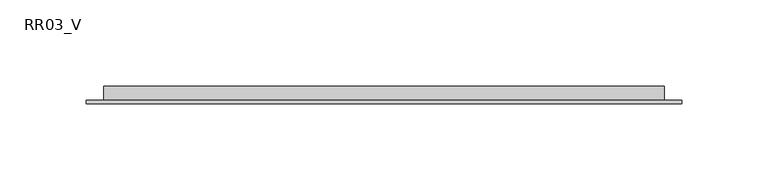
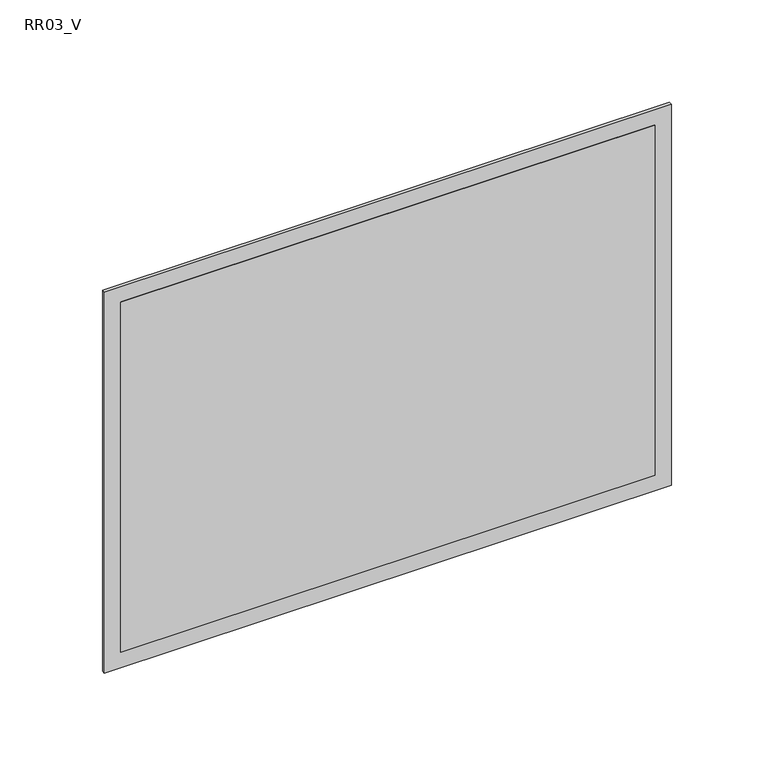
"""IFC4 building model written with IfcOpenShell, lengths in millimetres: air terminal geometry, ZYR_03.06.04.01 Reixa Paret Retorn : RR03_V."""

import ifcopenshell
import ifcopenshell.guid

model = None  # the IFC model being written
_history = None  # IfcOwnerHistory: only IFC2X3 demands one
_inside = {}  # id of a spatial element -> (the spatial element, [elements in it])
_under = {}  # id of a project, library or spatial element -> (it, [spatial elements below it])
_declared = {}  # id of a project -> (the project, [libraries it declares])
_typed = {}  # id of a type object -> (the type object, [elements of that type])
_made_of = {}  # id of a material, layer set ... -> (it, [elements and type objects made of it])


def new_model(schema):
    """Start an empty IFC model of exactly this schema.

    Asked for "IFC4X3", IfcOpenShell would pick the latest addendum, in which some entities
    have other attributes; the version numbers below select the first issue.
    IFC2X3 requires an IfcOwnerHistory on every rooted entity: one is made here for all.
    """
    global model, _history
    if schema == "IFC4X3":
        model = ifcopenshell.file(schema_version=(4, 3, 0, 0))
    else:
        model = ifcopenshell.file(schema=schema)
    _inside.clear()
    _under.clear()
    _declared.clear()
    _typed.clear()
    _made_of.clear()
    _history = None
    if model.schema == "IFC2X3":
        org = make("IfcOrganization", Name="unknown")
        user = make(
            "IfcPersonAndOrganization",
            ThePerson=make("IfcPerson", FamilyName="unknown"),
            TheOrganization=org,
        )
        app = make(
            "IfcApplication",
            ApplicationDeveloper=org,
            Version="unknown",
            ApplicationFullName="unknown",
            ApplicationIdentifier="unknown",
        )
        _history = make(
            "IfcOwnerHistory",
            OwningUser=user,
            OwningApplication=app,
            ChangeAction="ADDED",
            CreationDate=0,
        )
    return model


def make(cls, **values):
    """One entity of the class cls with the attributes given. An attribute that is None is left unset."""
    return model.create_entity(
        cls, **{name: value for name, value in values.items() if value is not None}
    )


def rooted(cls, **values):
    """An entity with a GlobalId (a new one), such as an element, a storey or a relation."""
    return make(cls, GlobalId=ifcopenshell.guid.new(), OwnerHistory=_history, **values)


def si_unit(unit_type, name, prefix=None):
    """IfcSIUnit, for example si_unit("LENGTHUNIT", "METRE", prefix="MILLI")."""
    return make("IfcSIUnit", UnitType=unit_type, Prefix=prefix, Name=name)


def assignment(units):
    """IfcUnitAssignment: the units of a project."""
    return None if units is None else make("IfcUnitAssignment", Units=units)


def point(xyz):
    """IfcCartesianPoint."""
    return None if xyz is None else make("IfcCartesianPoint", Coordinates=xyz)


def direction(xyz):
    """IfcDirection."""
    return None if xyz is None else make("IfcDirection", DirectionRatios=xyz)


def frame(location, z_axis=None, x_axis=None):
    """IfcAxis2Placement3D, a coordinate frame: its origin and axes. An axis left out is left unset."""
    return make(
        "IfcAxis2Placement3D",
        Location=point(location),
        Axis=direction(z_axis),
        RefDirection=direction(x_axis),
    )


def origin():
    """The frame at (0, 0, 0) with its axes left unset."""
    return frame((0.0, 0.0, 0.0))


def place(relative_to, where):
    """IfcLocalPlacement: puts the frame where relative to a parent placement (None: the world)."""
    return make(
        "IfcLocalPlacement", PlacementRelTo=relative_to, RelativePlacement=where
    )


def context(
    kind, dimensions, precision=None, world=None, true_north=None, identifier=None
):
    """IfcGeometricRepresentationContext, for example the 3D "Model" context."""
    return make(
        "IfcGeometricRepresentationContext",
        ContextIdentifier=identifier,
        ContextType=kind,
        CoordinateSpaceDimension=dimensions,
        Precision=precision,
        WorldCoordinateSystem=world,
        TrueNorth=true_north,
    )


def project(units=None, contexts=None):
    """IfcProject with its units and contexts."""
    return rooted(
        "IfcProject",
        Name="project",
        RepresentationContexts=contexts,
        UnitsInContext=assignment(units),
    )


def spatial(cls, under=None, at=None, **own):
    """A site, building, storey or space (cls), placed at a placement, below another one or the project."""
    s = rooted(cls, ObjectPlacement=at, **own)
    if under is not None:
        _under.setdefault(under.id(), (under, []))[1].append(s)
    return s


def polyline(points):
    """IfcPolyline through the points."""
    return make("IfcPolyline", Points=[point(p) for p in points])


def outline(outer, holes=None, kind="AREA"):
    """IfcArbitraryClosedProfileDef: a profile drawn as a closed curve; with holes, ...WithVoids."""
    if holes is None:
        return make("IfcArbitraryClosedProfileDef", ProfileType=kind, OuterCurve=outer)
    return make(
        "IfcArbitraryProfileDefWithVoids",
        ProfileType=kind,
        OuterCurve=outer,
        InnerCurves=holes,
    )


def extrude(swept, where, along, depth):
    """IfcExtrudedAreaSolid: the profile swept, set in the frame where, extruded along a direction by depth."""
    return make(
        "IfcExtrudedAreaSolid",
        SweptArea=swept,
        Position=where,
        ExtrudedDirection=direction(along),
        Depth=depth,
    )


def shape(context_of_items, identifier, shape_type, items):
    """IfcShapeRepresentation: the items that make up one representation, for example the "Body"."""
    return make(
        "IfcShapeRepresentation",
        ContextOfItems=context_of_items,
        RepresentationIdentifier=identifier,
        RepresentationType=shape_type,
        Items=items,
    )


def source(mapping_origin, context_of_items, identifier, shape_type, items):
    """IfcRepresentationMap: a shape defined once, which mapped items show again and again."""
    return make(
        "IfcRepresentationMap",
        MappingOrigin=mapping_origin,
        MappedRepresentation=shape(context_of_items, identifier, shape_type, items),
    )


def transform(
    local_origin,
    x_axis=None,
    y_axis=None,
    z_axis=None,
    scale=None,
    scale2=None,
    scale3=None,
    uniform=True,
):
    """IfcCartesianTransformationOperator3D, or its non-uniform kind. x_axis, y_axis, z_axis: its Axis1, 2, 3."""
    if uniform:
        return make(
            "IfcCartesianTransformationOperator3D",
            Axis1=direction(x_axis),
            Axis2=direction(y_axis),
            LocalOrigin=point(local_origin),
            Scale=scale,
            Axis3=direction(z_axis),
        )
    return make(
        "IfcCartesianTransformationOperator3DnonUniform",
        Axis1=direction(x_axis),
        Axis2=direction(y_axis),
        LocalOrigin=point(local_origin),
        Scale=scale,
        Axis3=direction(z_axis),
        Scale2=scale2,
        Scale3=scale3,
    )


def mapped(mapping_source, mapping_target):
    """IfcMappedItem: shows the shape of a source again, moved by a transform."""
    return make(
        "IfcMappedItem", MappingSource=mapping_source, MappingTarget=mapping_target
    )


def made_of(thing, what):
    """Note that an element or type object is made of a material, layer set ...; save() writes the relation."""
    if what is not None:
        _made_of.setdefault(what.id(), (what, []))[1].append(thing)
    return thing


def element(
    cls,
    number,
    at=None,
    inside=None,
    cuts=None,
    type_object=None,
    material=None,
    context=None,
    identifier="Body",
    shape_type=None,
    held_by="IfcProductDefinitionShape",
    body=None,
    shapes=None,
    **own,
):
    """One element of the class cls, such as IfcWall. Its Tag is "e" and its number.

    at: its placement. inside: the storey or other place that contains it. cuts: it is an
    opening in that element (IfcRelVoidsElement). A single representation is given by context,
    identifier, shape_type and body (its items); several are given by shapes. held_by: the class
    of the entity that holds the representations. save() writes the other relations.
    """
    e = rooted(cls, Tag="e%d" % number, ObjectPlacement=at, **own)
    if body is not None:
        shapes = [shape(context, identifier, shape_type, body)]
    if shapes is not None:
        e.Representation = make(held_by, Representations=shapes)
    if inside is not None:
        _inside.setdefault(inside.id(), (inside, []))[1].append(e)
    if cuts is not None:
        rooted(
            "IfcRelVoidsElement", RelatingBuildingElement=cuts, RelatedOpeningElement=e
        )
    if type_object is not None:
        _typed.setdefault(type_object.id(), (type_object, []))[1].append(e)
    return made_of(e, material)


def aggregate(whole, parts):
    """IfcRelAggregates: a whole, such as a stair, and the parts it consists of."""
    return rooted("IfcRelAggregates", RelatingObject=whole, RelatedObjects=parts)


def save(model, path):
    """Write the relations noted so far, then the file.

    IfcRelAggregates (storeys below a building ...), IfcRelContainedInSpatialStructure (elements
    in a storey), IfcRelDefinesByType, IfcRelAssociatesMaterial and IfcRelDeclares: one each for
    every whole, place, type object, material and project.
    """
    for whole, parts in _under.values():
        aggregate(whole, parts)
    for where, things in _inside.values():
        rooted(
            "IfcRelContainedInSpatialStructure",
            RelatedElements=things,
            RelatingStructure=where,
        )
    for kind, things in _typed.values():
        rooted("IfcRelDefinesByType", RelatedObjects=things, RelatingType=kind)
    for what, things in _made_of.values():
        rooted("IfcRelAssociatesMaterial", RelatedObjects=things, RelatingMaterial=what)
    for by, libraries in _declared.values():
        rooted("IfcRelDeclares", RelatingContext=by, RelatedDefinitions=libraries)
    model.write(path)


def rr03_v_93fa229b(model_context):
    return source(origin(), model_context, "Body", "SweptSolid", [
        extrude(outline(polyline([(162.5, 0.0), (-162.5, 0.0), (-162.5, 10.0), (162.5, 10.0), (162.5, 0.0)])), frame((0.0, 0.0, -112.5), z_axis=(0.0, 0.0, 1.0), x_axis=(1.0, 0.0, 0.0)), (0.0, 0.0, 1.0), 225.0),
        extrude(outline(polyline([(122.5, 172.5), (122.5, -172.5), (-122.5, -172.5), (-122.5, 172.5), (122.5, 172.5)]), holes=[polyline([(112.5, 162.5), (-112.5, 162.5), (-112.5, -162.5), (112.5, -162.5), (112.5, 162.5)])]), frame((0.0, 0.0, 0.0), z_axis=(0.0, 1.0, 0.0), x_axis=(0.0, 0.0, 1.0)), (0.0, 0.0, 1.0), 2.0),
    ])


if __name__ == "__main__":
    model = new_model("IFC4")
    model_context = context("Model", 3, world=origin())
    ifc_project = project(units=[si_unit("LENGTHUNIT", "METRE", prefix="MILLI")], contexts=[model_context])
    site = spatial("IfcSite", under=ifc_project)
    building = spatial("IfcBuilding", under=site)
    placement = place(None, origin())
    rr03_v_shape = rr03_v_93fa229b(model_context)
    element("IfcAirTerminal", 1, ObjectType="ZYR_03.06.04.01 Reixa Paret Retorn : RR03_V", at=placement, inside=building, context=model_context, shape_type="MappedRepresentation", body=[
        mapped(rr03_v_shape, transform((0.0, 0.0, 0.0), x_axis=(1.0, 0.0, 0.0), y_axis=(0.0, 1.0, 0.0), z_axis=(0.0, 0.0, 1.0))),
    ])
    save(model, "model.ifc")
